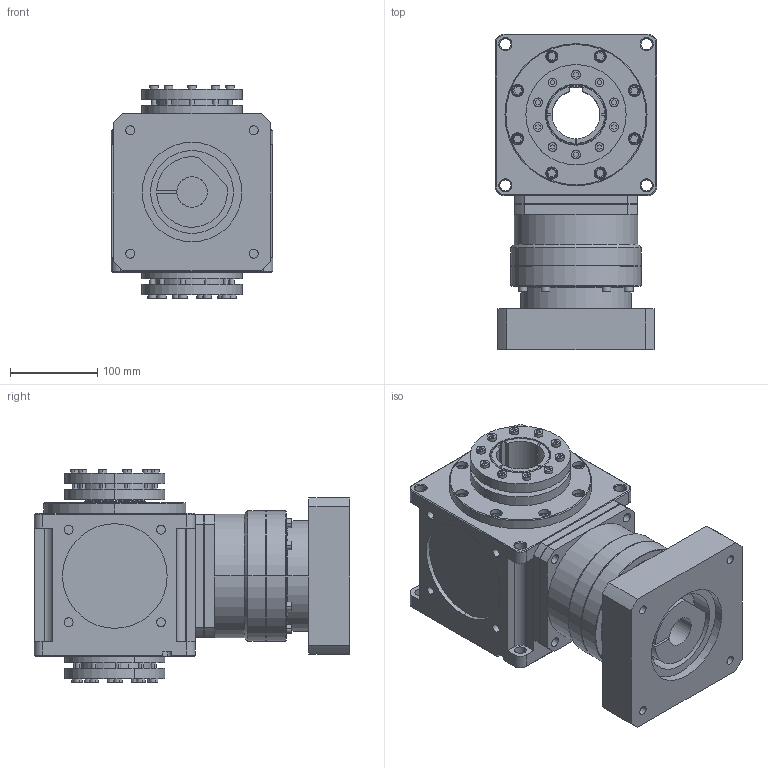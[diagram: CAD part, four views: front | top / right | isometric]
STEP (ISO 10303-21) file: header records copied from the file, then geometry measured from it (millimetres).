
FILE_DESCRIPTION (( 'STEP AP214' ), '1' );
FILE_NAME ('CCW185A-L1(6-20)-2HP-K 35-114.3-200-M12.STEP', '2025-05-26T05:30:56', ( '微软用户' ), ( '微软中国' ), 'SwSTEP 2.0', 'SolidWorks 2024', '' );
FILE_SCHEMA (( 'AUTOMOTIVE_DESIGN' ));
Length unit declared in the file: millimetre
Products named in the file (4): 外紧固型胀紧套[68-115]_EDO-68-115; CCW185A-L1(6-20)-2HP-K 35-114.3-200-M12; VRB-142-L1-S2-P1 35-114.3-200-M12; CCW185A-002-2HP-K箱体
Assembly tree (4 placements, depth 2):
  CCW185A-L1(6-20)-2HP-K 35-114.3-200-M12
    VRB-142-L1-S2-P1 35-114.3-200-M12
    CCW185A-002-2HP-K箱体
    外紧固型胀紧套[68-115]_EDO-68-115  x2
Bounding box: 185 x 362 x 244 mm (x, y, z)
Volume: 8969448 mm3; surface area: 584229.8 mm2
Topology: 4 solids, 4 shells, 914 faces, 2185 edges, 1409 vertices
Faces by surface type: plane 484, cylinder 330, cone 56, torus 44
Entity records: 22201 total; most frequent: CARTESIAN_POINT 4084, DIRECTION 3950, ORIENTED_EDGE 3574, EDGE_CURVE 1787, AXIS2_PLACEMENT_3D 1469, VERTEX_POINT 1145, LINE 1012, VECTOR 1012
